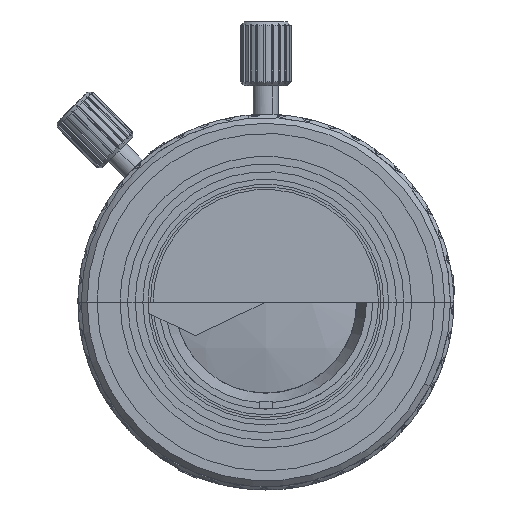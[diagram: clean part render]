
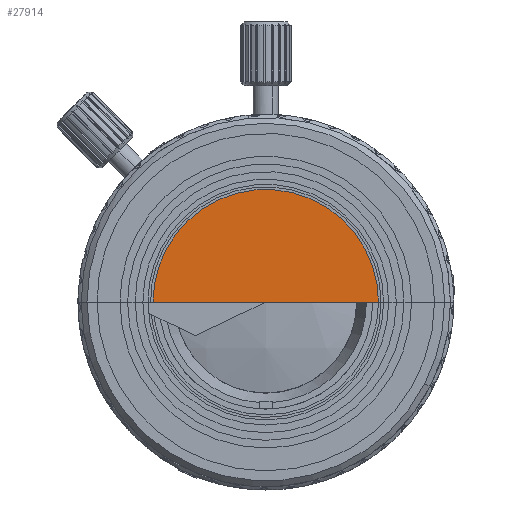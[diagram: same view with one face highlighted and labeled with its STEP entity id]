
A CAD part, left-side view. The second image highlights one B-rep face of the part: STEP entity #27914.
In plain terms, the highlighted planar face has unit normal (-1, 0, 0) as drawn and (1, 0, 0) by its records, which use the part's own axes.
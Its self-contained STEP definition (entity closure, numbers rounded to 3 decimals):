
#514 = EDGE_CURVE ( 'NONE', #37684, #39016, #32764, .T. ) ;
#879 = DIRECTION ( 'NONE',  ( 1., 0., 0. ) ) ;
#923 = DIRECTION ( 'NONE',  ( 0., 0.89, 0.457 ) ) ;
#1106 = DIRECTION ( 'NONE',  ( 0., 1., 0. ) ) ;
#2746 = CIRCLE ( 'NONE', #19325, 11.35 ) ;
#2799 = CARTESIAN_POINT ( 'NONE',  ( -10.341, -13.724, 34.223 ) ) ;
#5166 = CIRCLE ( 'NONE', #34385, 11.35 ) ;
#6084 = EDGE_CURVE ( 'NONE', #11867, #6954, #16106, .T. ) ;
#6954 = VERTEX_POINT ( 'NONE', #2799 ) ;
#8222 = AXIS2_PLACEMENT_3D ( 'NONE', #23121, #879, #24084 ) ;
#8285 = DIRECTION ( 'NONE',  ( 1., 0., 0. ) ) ;
#8991 = DIRECTION ( 'NONE',  ( 1., 0., 0. ) ) ;
#9816 = CARTESIAN_POINT ( 'NONE',  ( -10.341, -2.374, 34.223 ) ) ;
#10779 = ORIENTED_EDGE ( 'NONE', *, *, #44302, .F. ) ;
#11867 = VERTEX_POINT ( 'NONE', #35978 ) ;
#11954 = CARTESIAN_POINT ( 'NONE',  ( -10.341, 8.976, 34.223 ) ) ;
#13442 = LINE ( 'NONE', #32450, #19054 ) ;
#13742 = ORIENTED_EDGE ( 'NONE', *, *, #6084, .F. ) ;
#14076 = VERTEX_POINT ( 'NONE', #44825 ) ;
#16106 = CIRCLE ( 'NONE', #8222, 11.35 ) ;
#18653 = ORIENTED_EDGE ( 'NONE', *, *, #25891, .T. ) ;
#19054 = VECTOR ( 'NONE', #47561, 1000. ) ;
#19325 = AXIS2_PLACEMENT_3D ( 'NONE', #9816, #29102, #36521 ) ;
#19718 = CARTESIAN_POINT ( 'NONE',  ( -10.341, -2.374, 34.223 ) ) ;
#20181 = CARTESIAN_POINT ( 'NONE',  ( -10.341, -2.374, 34.223 ) ) ;
#23121 = CARTESIAN_POINT ( 'NONE',  ( -10.341, -2.374, 34.223 ) ) ;
#23368 = DIRECTION ( 'NONE',  ( 0., 0., -1. ) ) ;
#23880 = LINE ( 'NONE', #20181, #42225 ) ;
#24084 = DIRECTION ( 'NONE',  ( 0., 0., -1. ) ) ;
#24579 = PLANE ( 'NONE',  #31400 ) ;
#25891 = EDGE_CURVE ( 'NONE', #37684, #6954, #23880, .T. ) ;
#26830 = CARTESIAN_POINT ( 'NONE',  ( -10.341, -2.374, 34.223 ) ) ;
#27561 = FACE_OUTER_BOUND ( 'NONE', #48559, .T. ) ;
#27914 = ADVANCED_FACE ( 'NONE', ( #27561 ), #24579, .T. ) ;
#29102 = DIRECTION ( 'NONE',  ( -1., 0., 0. ) ) ;
#31400 = AXIS2_PLACEMENT_3D ( 'NONE', #35467, #8991, #1106 ) ;
#32450 = CARTESIAN_POINT ( 'NONE',  ( -10.341, -2.374, 34.223 ) ) ;
#32764 = CIRCLE ( 'NONE', #35121, 11.35 ) ;
#32785 = ORIENTED_EDGE ( 'NONE', *, *, #514, .F. ) ;
#34385 = AXIS2_PLACEMENT_3D ( 'NONE', #26830, #8285, #23368 ) ;
#34784 = DIRECTION ( 'NONE',  ( -1., 0., 0. ) ) ;
#35121 = AXIS2_PLACEMENT_3D ( 'NONE', #19718, #34784, #923 ) ;
#35467 = CARTESIAN_POINT ( 'NONE',  ( -10.341, -2.374, 34.223 ) ) ;
#35978 = CARTESIAN_POINT ( 'NONE',  ( -10.341, -2.374, 45.573 ) ) ;
#36521 = DIRECTION ( 'NONE',  ( 0., 0.89, 0.457 ) ) ;
#37225 = EDGE_CURVE ( 'NONE', #14076, #45109, #13442, .T. ) ;
#37604 = ORIENTED_EDGE ( 'NONE', *, *, #37225, .T. ) ;
#37684 = VERTEX_POINT ( 'NONE', #45531 ) ;
#39016 = VERTEX_POINT ( 'NONE', #46029 ) ;
#42225 = VECTOR ( 'NONE', #44166, 1000. ) ;
#42652 = EDGE_CURVE ( 'NONE', #39016, #45109, #2746, .T. ) ;
#44166 = DIRECTION ( 'NONE',  ( 0., 1., 0. ) ) ;
#44302 = EDGE_CURVE ( 'NONE', #14076, #11867, #5166, .T. ) ;
#44825 = CARTESIAN_POINT ( 'NONE',  ( -10.341, 8.976, 34.223 ) ) ;
#45109 = VERTEX_POINT ( 'NONE', #11954 ) ;
#45531 = CARTESIAN_POINT ( 'NONE',  ( -10.341, -13.724, 34.223 ) ) ;
#46029 = CARTESIAN_POINT ( 'NONE',  ( -10.341, 7.724, 39.405 ) ) ;
#47561 = DIRECTION ( 'NONE',  ( 0., 1., 0. ) ) ;
#47861 = ORIENTED_EDGE ( 'NONE', *, *, #42652, .F. ) ;
#48559 = EDGE_LOOP ( 'NONE', ( #32785, #18653, #13742, #10779, #37604, #47861 ) ) ;
